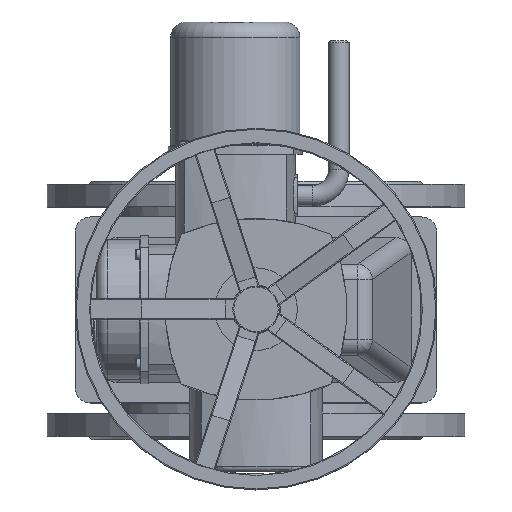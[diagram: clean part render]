
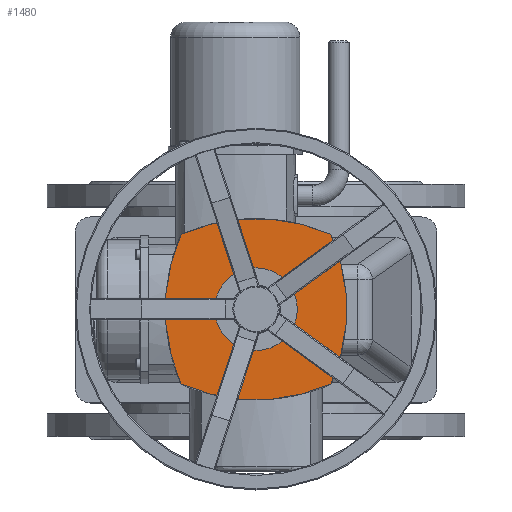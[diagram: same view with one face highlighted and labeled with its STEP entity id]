
A CAD part, top view. The second image highlights one B-rep face of the part: STEP entity #1480.
In plain terms, the highlighted planar face has unit normal (0, 0, 1).
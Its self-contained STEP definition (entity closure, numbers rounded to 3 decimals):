
#1480=ADVANCED_FACE('',(#5738,#5740),#5742,.T.);
#5738=FACE_BOUND('',#5739,.T.);
#5739=EDGE_LOOP('',(#8929,#8930,#8931,#8932));
#5740=FACE_BOUND('',#5741,.T.);
#5741=EDGE_LOOP('',(#8933));
#5742=PLANE('',#5743);
#5743=AXIS2_PLACEMENT_3D('',#5744,#5745,#5746);
#5744=CARTESIAN_POINT('',(0.,0.,724.));
#5745=DIRECTION('',(0.,0.,1.));
#5746=DIRECTION('',(0.,1.,0.));
#8929=ORIENTED_EDGE('',*,*,#10340,.T.);
#8930=ORIENTED_EDGE('',*,*,#10345,.T.);
#8931=ORIENTED_EDGE('',*,*,#10331,.T.);
#8932=ORIENTED_EDGE('',*,*,#10322,.T.);
#8933=ORIENTED_EDGE('',*,*,#10346,.F.);
#10322=EDGE_CURVE('',#11432,#11430,#11433,.T.);
#10331=EDGE_CURVE('',#11448,#11432,#11449,.T.);
#10340=EDGE_CURVE('',#11430,#11461,#11463,.T.);
#10345=EDGE_CURVE('',#11461,#11448,#11472,.T.);
#10346=EDGE_CURVE('',#11473,#11473,#11474,.T.);
#11430=VERTEX_POINT('',#14180);
#11432=VERTEX_POINT('',#14184);
#11433=CIRCLE('',#14185,180.);
#11448=VERTEX_POINT('',#14309);
#11449=CIRCLE('',#14310,180.);
#11461=VERTEX_POINT('',#14424);
#11463=CIRCLE('',#14428,180.);
#11472=CIRCLE('',#14613,180.);
#11473=VERTEX_POINT('',#14617);
#11474=CIRCLE('',#14618,40.);
#14180=CARTESIAN_POINT('',(-72.478,-72.478,724.));
#14184=CARTESIAN_POINT('',(-72.478,72.478,724.));
#14185=AXIS2_PLACEMENT_3D('',#14186,#14187,#14188);
#14186=CARTESIAN_POINT('',(92.285,0.,724.));
#14187=DIRECTION('',(0.,0.,1.));
#14188=DIRECTION('',(-0.915,0.403,0.));
#14309=CARTESIAN_POINT('',(72.478,72.478,724.));
#14310=AXIS2_PLACEMENT_3D('',#14311,#14312,#14313);
#14311=CARTESIAN_POINT('',(0.,-92.285,724.));
#14312=DIRECTION('',(0.,0.,1.));
#14313=DIRECTION('',(0.403,0.915,0.));
#14424=CARTESIAN_POINT('',(72.478,-72.478,724.));
#14428=AXIS2_PLACEMENT_3D('',#14429,#14430,#14431);
#14429=CARTESIAN_POINT('',(0.,92.285,724.));
#14430=DIRECTION('',(0.,0.,1.));
#14431=DIRECTION('',(-0.403,-0.915,0.));
#14613=AXIS2_PLACEMENT_3D('',#14614,#14615,#14616);
#14614=CARTESIAN_POINT('',(-92.285,0.,724.));
#14615=DIRECTION('',(0.,0.,1.));
#14616=DIRECTION('',(0.915,-0.403,0.));
#14617=CARTESIAN_POINT('',(0.,40.,724.));
#14618=AXIS2_PLACEMENT_3D('',#14619,#14620,#14621);
#14619=CARTESIAN_POINT('',(0.,0.,724.));
#14620=DIRECTION('',(0.,0.,1.));
#14621=DIRECTION('',(0.,1.,0.));
